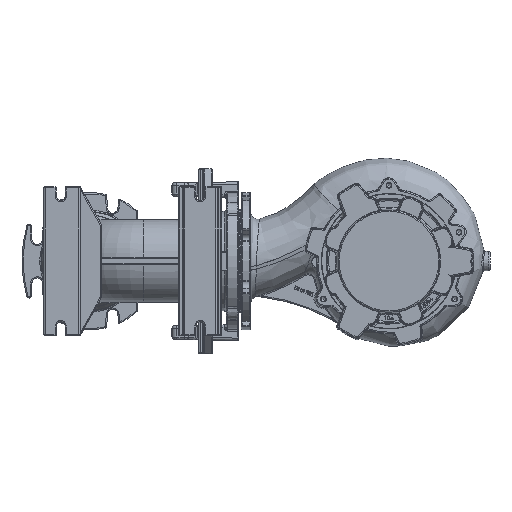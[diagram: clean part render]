
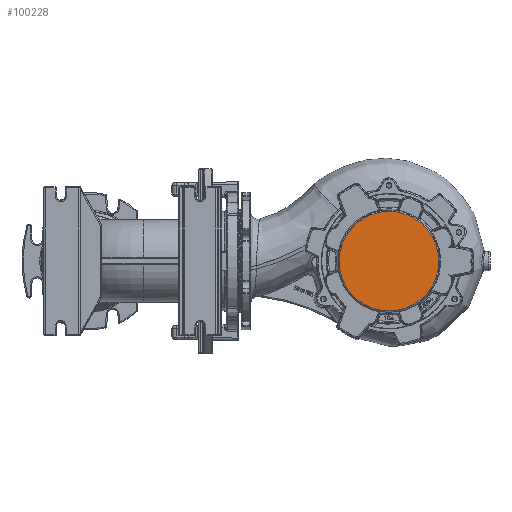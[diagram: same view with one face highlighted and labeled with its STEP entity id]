
A CAD part, front view. The second image highlights one B-rep face of the part: STEP entity #100228.
In plain terms, the highlighted planar face has unit normal (0, -1, 0).
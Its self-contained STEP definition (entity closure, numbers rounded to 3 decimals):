
#4773 = ORIENTED_EDGE ( 'NONE', *, *, #29250, .T. ) ;
#7130 = PLANE ( 'NONE',  #94451 ) ;
#20498 = AXIS2_PLACEMENT_3D ( 'NONE', #63252, #147674, #113452 ) ;
#20989 = DIRECTION ( 'NONE',  ( 0., -1., 0. ) ) ;
#29250 = EDGE_CURVE ( 'NONE', #69672, #69672, #139563, .T. ) ;
#38720 = EDGE_LOOP ( 'NONE', ( #4773 ) ) ;
#45073 = DIRECTION ( 'NONE',  ( -1., 0., 0. ) ) ;
#63252 = CARTESIAN_POINT ( 'NONE',  ( 362.5, -118.635, 0. ) ) ;
#69672 = VERTEX_POINT ( 'NONE', #129637 ) ;
#94451 = AXIS2_PLACEMENT_3D ( 'NONE', #117168, #20989, #45073 ) ;
#100228 = ADVANCED_FACE ( 'NONE', ( #145911 ), #7130, .T. ) ;
#113452 = DIRECTION ( 'NONE',  ( 0., 0., -1. ) ) ;
#117168 = CARTESIAN_POINT ( 'NONE',  ( 362.5, -118.635, 0. ) ) ;
#129637 = CARTESIAN_POINT ( 'NONE',  ( 362.5, -118.635, -103.628 ) ) ;
#139563 = CIRCLE ( 'NONE', #20498, 103.628 ) ;
#145911 = FACE_OUTER_BOUND ( 'NONE', #38720, .T. ) ;
#147674 = DIRECTION ( 'NONE',  ( 0., -1., 0. ) ) ;
